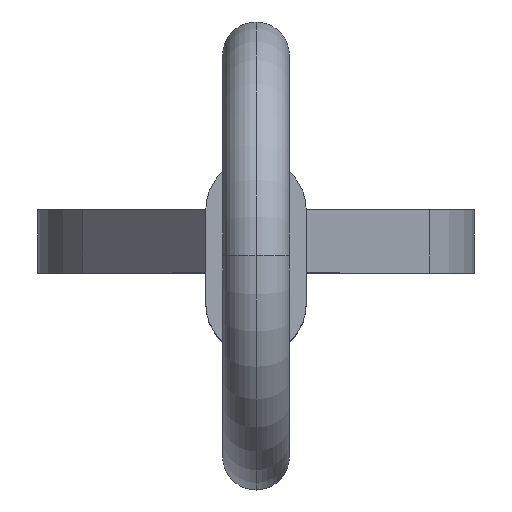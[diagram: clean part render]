
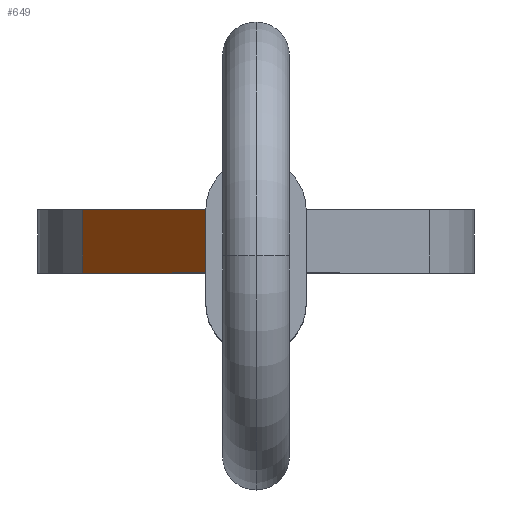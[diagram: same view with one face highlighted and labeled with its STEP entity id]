
A CAD part, top view. The second image highlights one B-rep face of the part: STEP entity #649.
In plain terms, the highlighted planar face has unit normal (-0.794, 0, 0.608).
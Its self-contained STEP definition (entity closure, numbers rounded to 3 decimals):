
#21 = CARTESIAN_POINT ( 'NONE',  ( -1.195, -1.195, -10. ) ) ;
#39 = DIRECTION ( 'NONE',  ( 0., -1., 0. ) ) ;
#44 = VECTOR ( 'NONE', #733, 1000. ) ;
#130 = CARTESIAN_POINT ( 'NONE',  ( -4.132, 0.325, -13.835 ) ) ;
#186 = ORIENTED_EDGE ( 'NONE', *, *, #296, .T. ) ;
#190 = VERTEX_POINT ( 'NONE', #21 ) ;
#192 = LINE ( 'NONE', #737, #635 ) ;
#205 = VERTEX_POINT ( 'NONE', #409 ) ;
#240 = ORIENTED_EDGE ( 'NONE', *, *, #406, .T. ) ;
#261 = EDGE_CURVE ( 'NONE', #190, #451, #538, .T. ) ;
#276 = PLANE ( 'NONE',  #408 ) ;
#296 = EDGE_CURVE ( 'NONE', #205, #451, #192, .T. ) ;
#331 = VERTEX_POINT ( 'NONE', #586 ) ;
#356 = FACE_OUTER_BOUND ( 'NONE', #692, .T. ) ;
#379 = CARTESIAN_POINT ( 'NONE',  ( -1.195, 0.325, -10. ) ) ;
#406 = EDGE_CURVE ( 'NONE', #190, #535, #421, .T. ) ;
#408 = AXIS2_PLACEMENT_3D ( 'NONE', #130, #580, #822 ) ;
#409 = CARTESIAN_POINT ( 'NONE',  ( -4.132, 0.325, -13.835 ) ) ;
#421 = LINE ( 'NONE', #803, #44 ) ;
#422 = CARTESIAN_POINT ( 'NONE',  ( -1.195, 0., -10. ) ) ;
#446 = LINE ( 'NONE', #379, #824 ) ;
#451 = VERTEX_POINT ( 'NONE', #794 ) ;
#510 = LINE ( 'NONE', #817, #731 ) ;
#535 = VERTEX_POINT ( 'NONE', #422 ) ;
#538 = LINE ( 'NONE', #850, #835 ) ;
#580 = DIRECTION ( 'NONE',  ( -0.794, 0., 0.608 ) ) ;
#586 = CARTESIAN_POINT ( 'NONE',  ( -1.195, 0.325, -10. ) ) ;
#635 = VECTOR ( 'NONE', #39, 1000. ) ;
#649 = ADVANCED_FACE ( 'NONE', ( #356 ), #276, .T. ) ;
#684 = ORIENTED_EDGE ( 'NONE', *, *, #261, .F. ) ;
#687 = ORIENTED_EDGE ( 'NONE', *, *, #735, .T. ) ;
#689 = DIRECTION ( 'NONE',  ( 0., -1., 0. ) ) ;
#692 = EDGE_LOOP ( 'NONE', ( #684, #240, #989, #687, #186 ) ) ;
#702 = DIRECTION ( 'NONE',  ( -0.608, 0., -0.794 ) ) ;
#731 = VECTOR ( 'NONE', #741, 1000. ) ;
#733 = DIRECTION ( 'NONE',  ( 0., 1., 0. ) ) ;
#735 = EDGE_CURVE ( 'NONE', #331, #205, #510, .T. ) ;
#737 = CARTESIAN_POINT ( 'NONE',  ( -4.132, 0.325, -13.835 ) ) ;
#741 = DIRECTION ( 'NONE',  ( -0.608, 0., -0.794 ) ) ;
#794 = CARTESIAN_POINT ( 'NONE',  ( -4.132, -1.195, -13.835 ) ) ;
#803 = CARTESIAN_POINT ( 'NONE',  ( -1.195, -1.195, -10. ) ) ;
#817 = CARTESIAN_POINT ( 'NONE',  ( -4.132, 0.325, -13.835 ) ) ;
#822 = DIRECTION ( 'NONE',  ( 0.608, 0., 0.794 ) ) ;
#824 = VECTOR ( 'NONE', #689, 1000. ) ;
#835 = VECTOR ( 'NONE', #702, 1000. ) ;
#850 = CARTESIAN_POINT ( 'NONE',  ( -4.132, -1.195, -13.835 ) ) ;
#869 = EDGE_CURVE ( 'NONE', #331, #535, #446, .T. ) ;
#989 = ORIENTED_EDGE ( 'NONE', *, *, #869, .F. ) ;
